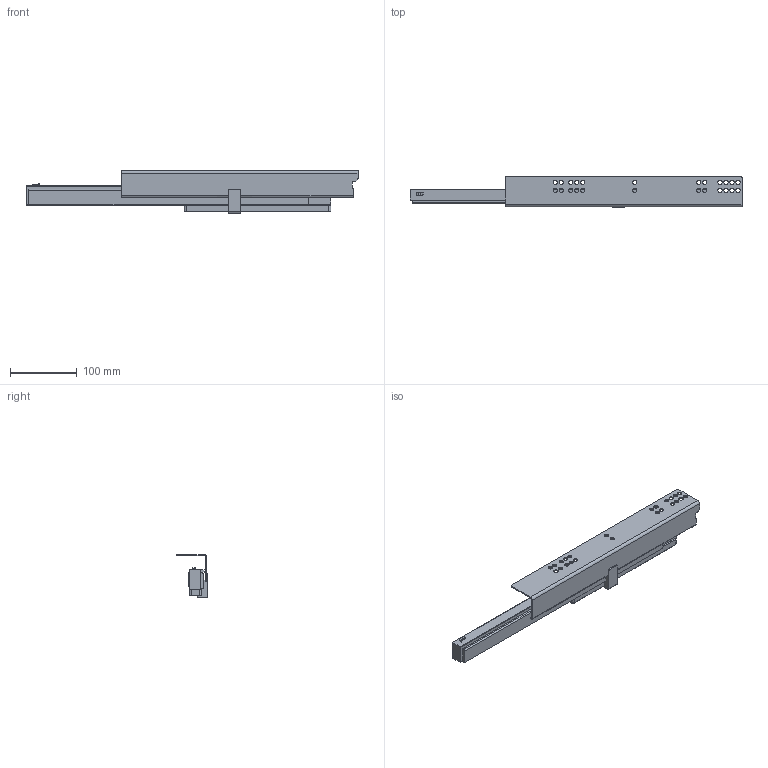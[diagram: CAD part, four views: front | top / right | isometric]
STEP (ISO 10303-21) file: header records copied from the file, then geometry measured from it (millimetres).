
FILE_DESCRIPTION (( 'STEP AP203' ), '1' );
FILE_NAME ('HD10500H-L(敕磁).STEP', '2021-04-02T00:38:09', ( 'Users' ), ( 'Microsoft' ), 'SwSTEP 2.0', 'SolidWorks 2018', '' );
FILE_SCHEMA (( 'CONFIG_CONTROL_DESIGN' ));
Length unit declared in the file: millimetre
Products named in the file (1): HD10500H-L(敕磁)
Bounding box: 498 x 47.8 x 64.23 mm (x, y, z)
Volume: 374712.8 mm3; surface area: 114265.3 mm2
Topology: 1 solids, 1 shells, 240 faces, 642 edges, 404 vertices
Faces by surface type: cylinder 103, plane 77, cone 48, torus 12
Entity records: 7692 total; most frequent: DIRECTION 1408, CARTESIAN_POINT 1290, ORIENTED_EDGE 1284, EDGE_CURVE 642, AXIS2_PLACEMENT_3D 526, VERTEX_POINT 404, VECTOR 356, LINE 356
